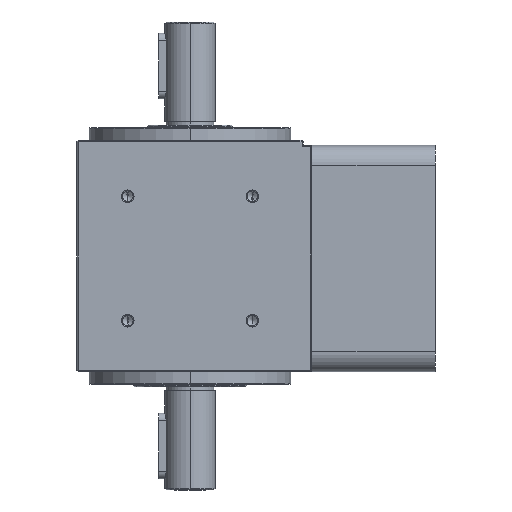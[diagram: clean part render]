
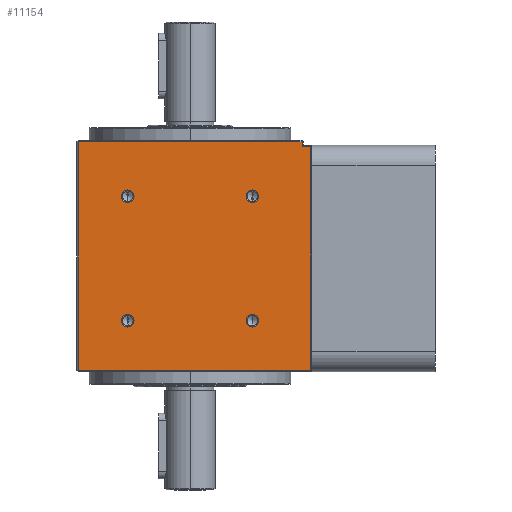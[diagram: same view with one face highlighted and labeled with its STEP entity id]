
A CAD part, left-side view. The second image highlights one B-rep face of the part: STEP entity #11154.
In plain terms, the highlighted planar face has unit normal (-1, 0, 0) as drawn and (1, 0, 0) by its records, which use the part's own axes.
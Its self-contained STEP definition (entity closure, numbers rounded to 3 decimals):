
#207 = DIRECTION ( 'NONE',  ( 0., 1., 0. ) ) ;
#384 = DIRECTION ( 'NONE',  ( 0., 0., -1. ) ) ;
#643 = DIRECTION ( 'NONE',  ( 0., 0., -1. ) ) ;
#850 = CARTESIAN_POINT ( 'NONE',  ( 45., 24.749, 27.251 ) ) ;
#925 = LINE ( 'NONE', #19102, #8096 ) ;
#1194 = DIRECTION ( 'NONE',  ( 0., -1., 0. ) ) ;
#1411 = VECTOR ( 'NONE', #29315, 1000. ) ;
#1520 = EDGE_CURVE ( 'NONE', #32594, #28584, #9002, .T. ) ;
#2248 = AXIS2_PLACEMENT_3D ( 'NONE', #4314, #4438, #1194 ) ;
#2446 = ORIENTED_EDGE ( 'NONE', *, *, #7543, .F. ) ;
#2760 = ORIENTED_EDGE ( 'NONE', *, *, #13502, .T. ) ;
#3018 = EDGE_CURVE ( 'NONE', #28584, #19627, #11153, .T. ) ;
#3343 = CARTESIAN_POINT ( 'NONE',  ( 45., 24.749, 79.249 ) ) ;
#3411 = VECTOR ( 'NONE', #15228, 1000. ) ;
#3733 = DIRECTION ( 'NONE',  ( 0., 0., -1. ) ) ;
#4314 = CARTESIAN_POINT ( 'NONE',  ( 45., -45., 102. ) ) ;
#4438 = DIRECTION ( 'NONE',  ( -1., 0., 0. ) ) ;
#4740 = VERTEX_POINT ( 'NONE', #26571 ) ;
#5067 = AXIS2_PLACEMENT_3D ( 'NONE', #6043, #20204, #15066 ) ;
#5225 = DIRECTION ( 'NONE',  ( 0., 0., -1. ) ) ;
#5407 = CARTESIAN_POINT ( 'NONE',  ( 45., -24.749, 74.249 ) ) ;
#5608 = FACE_BOUND ( 'NONE', #29244, .T. ) ;
#6005 = VECTOR ( 'NONE', #207, 1000. ) ;
#6043 = CARTESIAN_POINT ( 'NONE',  ( 45., 24.749, 76.749 ) ) ;
#6376 = CARTESIAN_POINT ( 'NONE',  ( 45., 24.749, 27.251 ) ) ;
#6437 = CIRCLE ( 'NONE', #20419, 2.5 ) ;
#7543 = EDGE_CURVE ( 'NONE', #11416, #33645, #33840, .T. ) ;
#7979 = ORIENTED_EDGE ( 'NONE', *, *, #3018, .T. ) ;
#8006 = ORIENTED_EDGE ( 'NONE', *, *, #11130, .T. ) ;
#8096 = VECTOR ( 'NONE', #21997, 1000. ) ;
#8427 = EDGE_CURVE ( 'NONE', #24753, #27563, #22736, .T. ) ;
#8598 = CARTESIAN_POINT ( 'NONE',  ( 45., -47.93, 102. ) ) ;
#9002 = LINE ( 'NONE', #9365, #1411 ) ;
#9128 = EDGE_CURVE ( 'NONE', #29620, #32594, #17759, .T. ) ;
#9177 = PLANE ( 'NONE',  #2248 ) ;
#9365 = CARTESIAN_POINT ( 'NONE',  ( 45., -45., 7.5 ) ) ;
#9369 = ORIENTED_EDGE ( 'NONE', *, *, #32034, .F. ) ;
#9610 = FACE_OUTER_BOUND ( 'NONE', #20141, .T. ) ;
#9708 = ORIENTED_EDGE ( 'NONE', *, *, #1520, .T. ) ;
#9826 = CIRCLE ( 'NONE', #29756, 2.5 ) ;
#9915 = CARTESIAN_POINT ( 'NONE',  ( 45., -44.5, 5.5 ) ) ;
#10056 = CARTESIAN_POINT ( 'NONE',  ( 45., 44.5, 5.5 ) ) ;
#11043 = CARTESIAN_POINT ( 'NONE',  ( 45., -24.749, 24.751 ) ) ;
#11094 = DIRECTION ( 'NONE',  ( 1., 0., 0. ) ) ;
#11130 = EDGE_CURVE ( 'NONE', #19627, #30072, #17662, .T. ) ;
#11153 = LINE ( 'NONE', #21273, #15674 ) ;
#11154 = ADVANCED_FACE ( 'NONE', ( #9610, #5608, #14130, #12317, #24904 ), #9177, .F. ) ;
#11416 = VERTEX_POINT ( 'NONE', #11043 ) ;
#12213 = DIRECTION ( 'NONE',  ( 0., 0., -1. ) ) ;
#12317 = FACE_BOUND ( 'NONE', #36901, .T. ) ;
#13094 = DIRECTION ( 'NONE',  ( 1., 0., 0. ) ) ;
#13502 = EDGE_CURVE ( 'NONE', #13994, #29620, #20677, .T. ) ;
#13994 = VERTEX_POINT ( 'NONE', #15475 ) ;
#14038 = ORIENTED_EDGE ( 'NONE', *, *, #14186, .F. ) ;
#14130 = FACE_BOUND ( 'NONE', #24017, .T. ) ;
#14186 = EDGE_CURVE ( 'NONE', #34435, #22945, #29633, .T. ) ;
#14558 = EDGE_CURVE ( 'NONE', #30072, #13994, #925, .T. ) ;
#14975 = DIRECTION ( 'NONE',  ( 1., 0., 0. ) ) ;
#14995 = ORIENTED_EDGE ( 'NONE', *, *, #34912, .F. ) ;
#15035 = DIRECTION ( 'NONE',  ( 1., 0., 0. ) ) ;
#15066 = DIRECTION ( 'NONE',  ( 0., 0., -1. ) ) ;
#15228 = DIRECTION ( 'NONE',  ( 0., 0., -1. ) ) ;
#15287 = ORIENTED_EDGE ( 'NONE', *, *, #32754, .F. ) ;
#15475 = CARTESIAN_POINT ( 'NONE',  ( 45., 44.5, 96.5 ) ) ;
#15674 = VECTOR ( 'NONE', #3733, 1000. ) ;
#15728 = VERTEX_POINT ( 'NONE', #3343 ) ;
#15740 = DIRECTION ( 'NONE',  ( 0., 0., -1. ) ) ;
#16276 = CARTESIAN_POINT ( 'NONE',  ( 45., -24.749, 27.251 ) ) ;
#16749 = DIRECTION ( 'NONE',  ( 1., 0., 0. ) ) ;
#17072 = ORIENTED_EDGE ( 'NONE', *, *, #23022, .F. ) ;
#17122 = CARTESIAN_POINT ( 'NONE',  ( 45., -47.93, 96.5 ) ) ;
#17333 = CIRCLE ( 'NONE', #5067, 2.5 ) ;
#17362 = CARTESIAN_POINT ( 'NONE',  ( 45., 45., 5.5 ) ) ;
#17657 = DIRECTION ( 'NONE',  ( 1., 0., 0. ) ) ;
#17662 = LINE ( 'NONE', #17362, #6005 ) ;
#17759 = LINE ( 'NONE', #8598, #3411 ) ;
#18111 = DIRECTION ( 'NONE',  ( 1., 0., 0. ) ) ;
#18359 = CARTESIAN_POINT ( 'NONE',  ( 45., 24.749, 24.751 ) ) ;
#18960 = AXIS2_PLACEMENT_3D ( 'NONE', #22167, #11094, #5225 ) ;
#19102 = CARTESIAN_POINT ( 'NONE',  ( 45., 44.5, 102. ) ) ;
#19627 = VERTEX_POINT ( 'NONE', #9915 ) ;
#20141 = EDGE_LOOP ( 'NONE', ( #9708, #7979, #8006, #25341, #2760, #21513 ) ) ;
#20204 = DIRECTION ( 'NONE',  ( 1., 0., 0. ) ) ;
#20419 = AXIS2_PLACEMENT_3D ( 'NONE', #850, #18111, #12213 ) ;
#20677 = LINE ( 'NONE', #30938, #34591 ) ;
#21273 = CARTESIAN_POINT ( 'NONE',  ( 45., -44.5, 102. ) ) ;
#21513 = ORIENTED_EDGE ( 'NONE', *, *, #9128, .T. ) ;
#21997 = DIRECTION ( 'NONE',  ( 0., 0., 1. ) ) ;
#22167 = CARTESIAN_POINT ( 'NONE',  ( 45., 24.749, 76.749 ) ) ;
#22282 = CIRCLE ( 'NONE', #22841, 2.5 ) ;
#22736 = CIRCLE ( 'NONE', #36882, 2.5 ) ;
#22841 = AXIS2_PLACEMENT_3D ( 'NONE', #23766, #17657, #384 ) ;
#22945 = VERTEX_POINT ( 'NONE', #5407 ) ;
#23022 = EDGE_CURVE ( 'NONE', #27563, #24753, #6437, .T. ) ;
#23766 = CARTESIAN_POINT ( 'NONE',  ( 45., -24.749, 76.749 ) ) ;
#24017 = EDGE_LOOP ( 'NONE', ( #25934, #14038 ) ) ;
#24638 = AXIS2_PLACEMENT_3D ( 'NONE', #32875, #13094, #15740 ) ;
#24676 = CIRCLE ( 'NONE', #18960, 2.5 ) ;
#24753 = VERTEX_POINT ( 'NONE', #18359 ) ;
#24904 = FACE_BOUND ( 'NONE', #30714, .T. ) ;
#25262 = DIRECTION ( 'NONE',  ( 0., 0., -1. ) ) ;
#25341 = ORIENTED_EDGE ( 'NONE', *, *, #14558, .T. ) ;
#25372 = CARTESIAN_POINT ( 'NONE',  ( 45., 24.749, 29.751 ) ) ;
#25934 = ORIENTED_EDGE ( 'NONE', *, *, #36011, .F. ) ;
#26571 = CARTESIAN_POINT ( 'NONE',  ( 45., 24.749, 74.249 ) ) ;
#27336 = CARTESIAN_POINT ( 'NONE',  ( 45., -44.5, 7.5 ) ) ;
#27563 = VERTEX_POINT ( 'NONE', #25372 ) ;
#28584 = VERTEX_POINT ( 'NONE', #27336 ) ;
#29244 = EDGE_LOOP ( 'NONE', ( #2446, #15287 ) ) ;
#29315 = DIRECTION ( 'NONE',  ( 0., 1., 0. ) ) ;
#29419 = CARTESIAN_POINT ( 'NONE',  ( 45., -24.749, 29.751 ) ) ;
#29620 = VERTEX_POINT ( 'NONE', #17122 ) ;
#29633 = CIRCLE ( 'NONE', #24638, 2.5 ) ;
#29756 = AXIS2_PLACEMENT_3D ( 'NONE', #35019, #14975, #32240 ) ;
#30072 = VERTEX_POINT ( 'NONE', #10056 ) ;
#30714 = EDGE_LOOP ( 'NONE', ( #31345, #17072 ) ) ;
#30938 = CARTESIAN_POINT ( 'NONE',  ( 45., -48.43, 96.5 ) ) ;
#31345 = ORIENTED_EDGE ( 'NONE', *, *, #8427, .F. ) ;
#31403 = CARTESIAN_POINT ( 'NONE',  ( 45., -47.93, 7.5 ) ) ;
#32034 = EDGE_CURVE ( 'NONE', #15728, #4740, #24676, .T. ) ;
#32240 = DIRECTION ( 'NONE',  ( 0., 0., -1. ) ) ;
#32594 = VERTEX_POINT ( 'NONE', #31403 ) ;
#32754 = EDGE_CURVE ( 'NONE', #33645, #11416, #9826, .T. ) ;
#32875 = CARTESIAN_POINT ( 'NONE',  ( 45., -24.749, 76.749 ) ) ;
#33428 = DIRECTION ( 'NONE',  ( 0., -1., 0. ) ) ;
#33645 = VERTEX_POINT ( 'NONE', #29419 ) ;
#33840 = CIRCLE ( 'NONE', #33946, 2.5 ) ;
#33946 = AXIS2_PLACEMENT_3D ( 'NONE', #16276, #16749, #25262 ) ;
#34435 = VERTEX_POINT ( 'NONE', #36041 ) ;
#34591 = VECTOR ( 'NONE', #33428, 1000. ) ;
#34912 = EDGE_CURVE ( 'NONE', #4740, #15728, #17333, .T. ) ;
#35019 = CARTESIAN_POINT ( 'NONE',  ( 45., -24.749, 27.251 ) ) ;
#36011 = EDGE_CURVE ( 'NONE', #22945, #34435, #22282, .T. ) ;
#36041 = CARTESIAN_POINT ( 'NONE',  ( 45., -24.749, 79.249 ) ) ;
#36882 = AXIS2_PLACEMENT_3D ( 'NONE', #6376, #15035, #643 ) ;
#36901 = EDGE_LOOP ( 'NONE', ( #14995, #9369 ) ) ;
